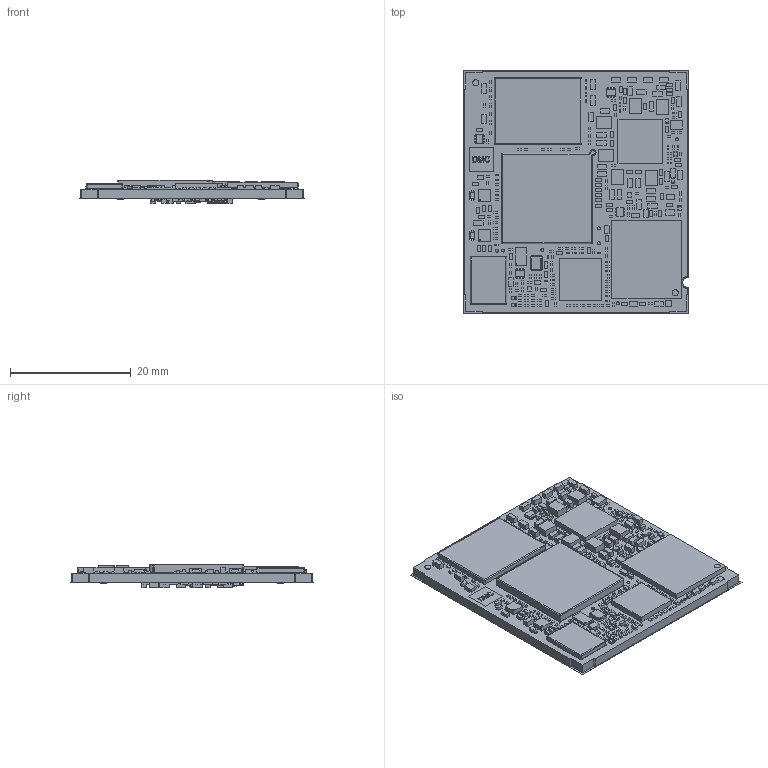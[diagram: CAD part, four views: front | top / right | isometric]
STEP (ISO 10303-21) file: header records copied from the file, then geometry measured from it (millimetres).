
FILE_DESCRIPTION(('STEP AP214'),'1');
FILE_NAME('Board1_BoardAndModels.step','2022-11-23T14:11:47',(' '),(' '),'Spatial InterOp 3D','XD3DPlugin XRACreate',' ');
FILE_SCHEMA(('automotive_design'));
Length unit declared in the file: millimetre
Products named in the file (149): Submodel-N:\GROUP\DEVELOP\HARDWARE\PCL-070-iMX8MPlus\Design\1561.1\002\PCB\Layout\3D\Input_S\0201YC101KAZ2A.xtd; 0201YC101KAZ2A; Submodel-CAP3713_part_simplified_0201; DesignRootModel; Submodel-N:\GROUP\DEVELOP\HARDWARE\PCL-070-iMX8MPlus\Design\1561.1\002\PCB\Layout\3D\Input_S\06035C473JAZ7A_0.xtd; 06035C473JAZ7A_0; Submodel-CAP3343_part_simplified_0603-C3; Submodel-N:\GROUP\DEVELOP\HARDWARE\PCL-070-iMX8MPlus\Design\1561.1\002\PCB\Layout\3D\Input_S\0402YC822JAZ4A.xtd; 0402YC822JAZ4A; Submodel-CAP722_part_simplified_0402-C3; Submodel-CAP3843_part_simplified_0201; Submodel-N:\GROUP\DEVELOP\HARDWARE\PCL-070-iMX8MPlus\Design\1561.1\002\PCB\Layout\3D\Input_S\RC0603F1005CS.xtd; RC0603F1005CS; Submodel-RES5673_part_simplified_0201; Submodel-N:\GROUP\DEVELOP\HARDWARE\PCL-070-iMX8MPlus\Design\1561.1\002\PCB\Layout\3D\Input_S\CRCW020110R7JNEF.xtd; CRCW020110R7JNEF; Submodel-RES5653_part_simplified_0201; Submodel-RES6123_part_simplified_0201; Submodel-N:\GROUP\DEVELOP\HARDWARE\PCL-070-iMX8MPlus\Design\1561.1\002\PCB\Layout\3D\Input_S\REMOVE_CONN13663.xtd; REMOVE_CONN13663; Submodel-CONN13663_part_simplified_Testpunkt-0.5mm; Submodel-N:\GROUP\DEVELOP\HARDWARE\PCL-070-iMX8MPlus\Design\1561.1\002\PCB\Layout\3D\Input_S\xd_sot666_4.xtd; xd_sot666_4; Submodel-ICGEN523_part_simplified_R-PDSO-N6-DRL; Submodel-N:\GROUP\DEVELOP\HARDWARE\PCL-070-iMX8MPlus\Design\1561.1\002\PCB\Layout\3D\Input_S\RCC-0402-1000F.xtd; RCC-0402-1000F; Submodel-RES5193_part_simplified_0402; Submodel-N:\GROUP\DEVELOP\HARDWARE\PCL-070-iMX8MPlus\Design\1561.1\002\PCB\Layout\3D\Input_S\BLM15BD471SN1D.xtd; BLM15BD471SN1D; Submodel-FILTER92_part_simplified_0402-C3; Submodel-RES5713_part_simplified_0201; Submodel-RES5773_part_simplified_0201; Submodel-CAP3313_part_simplified_0201; Submodel-N:\GROUP\DEVELOP\HARDWARE\PCL-070-iMX8MPlus\Design\1561.1\002\PCB\Layout\3D\Input_S\TRANSISTOR932.xtd; TRANSISTOR932; Submodel-TRANSISTOR932_part_simplified_DFN-0806-3; Submodel-CAP3003_part_simplified_0201; Submodel-N:\GROUP\DEVELOP\HARDWARE\PCL-070-iMX8MPlus\Design\1561.1\002\PCB\Layout\3D\Input_S\EEPROM202.xtd; EEPROM202; Submodel-EEPROM202_part_simplified_DFN8-50-EP1_comma_2x1_comma_2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
Assembly tree (523 placements, depth 6):
  Board1_BoardAndModels
    DesignRootModel
      Submodel-CAP3713_part_simplified_0201  x20
        Submodel-N:\GROUP\DEVELOP\HARDWARE\PCL-070-iMX8MPlus\Design\1561.1\002\PCB\Layout\3D\Input_S\0201YC101KAZ2A.xtd
          0201YC101KAZ2A
      Submodel-CAP3343_part_simplified_0603-C3  x40
        Submodel-N:\GROUP\DEVELOP\HARDWARE\PCL-070-iMX8MPlus\Design\1561.1\002\PCB\Layout\3D\Input_S\06035C473JAZ7A_0.xtd
          06035C473JAZ7A_0
      Submodel-CAP722_part_simplified_0402-C3  x29
        Submodel-N:\GROUP\DEVELOP\HARDWARE\PCL-070-iMX8MPlus\Design\1561.1\002\PCB\Layout\3D\Input_S\0402YC822JAZ4A.xtd
          0402YC822JAZ4A
      Submodel-CAP3843_part_simplified_0201  x106
        Submodel-N:\GROUP\DEVELOP\HARDWARE\PCL-070-iMX8MPlus\Design\1561.1\002\PCB\Layout\3D\Input_S\0201YC101KAZ2A.xtd
          0201YC101KAZ2A
      Submodel-RES5673_part_simplified_0201  x23
        Submodel-N:\GROUP\DEVELOP\HARDWARE\PCL-070-iMX8MPlus\Design\1561.1\002\PCB\Layout\3D\Input_S\RC0603F1005CS.xtd
          RC0603F1005CS
      Submodel-RES5653_part_simplified_0201  x13
        Submodel-N:\GROUP\DEVELOP\HARDWARE\PCL-070-iMX8MPlus\Design\1561.1\002\PCB\Layout\3D\Input_S\CRCW020110R7JNEF.xtd
          CRCW020110R7JNEF
      Submodel-RES6123_part_simplified_0201  x9
        Submodel-N:\GROUP\DEVELOP\HARDWARE\PCL-070-iMX8MPlus\Design\1561.1\002\PCB\Layout\3D\Input_S\CRCW020110R7JNEF.xtd
          CRCW020110R7JNEF
      Submodel-CONN13663_part_simplified_Testpunkt-0.5mm  x7
        Submodel-N:\GROUP\DEVELOP\HARDWARE\PCL-070-iMX8MPlus\Design\1561.1\002\PCB\Layout\3D\Input_S\REMOVE_CONN13663.xtd
          REMOVE_CONN13663
      Submodel-ICGEN523_part_simplified_R-PDSO-N6-DRL  x4
        Submodel-N:\GROUP\DEVELOP\HARDWARE\PCL-070-iMX8MPlus\Design\1561.1\002\PCB\Layout\3D\Input_S\xd_sot666_4.xtd
          xd_sot666_4
      Submodel-RES5193_part_simplified_0402  x2
        Submodel-N:\GROUP\DEVELOP\HARDWARE\PCL-070-iMX8MPlus\Design\1561.1\002\PCB\Layout\3D\Input_S\RCC-0402-1000F.xtd
          RCC-0402-1000F
      Submodel-FILTER92_part_simplified_0402-C3  x8
        Submodel-N:\GROUP\DEVELOP\HARDWARE\PCL-070-iMX8MPlus\Design\1561.1\002\PCB\Layout\3D\Input_S\BLM15BD471SN1D.xtd
          BLM15BD471SN1D
      Submodel-RES5713_part_simplified_0201  x14
        Submodel-N:\GROUP\DEVELOP\HARDWARE\PCL-070-iMX8MPlus\Design\1561.1\002\PCB\Layout\3D\Input_S\RC0603F1005CS.xtd
          RC0603F1005CS
      Submodel-RES5773_part_simplified_0201  x6
        Submodel-N:\GROUP\DEVELOP\HARDWARE\PCL-070-iMX8MPlus\Design\1561.1\002\PCB\Layout\3D\Input_S\RC0603F1005CS.xtd
          RC0603F1005CS
      Submodel-CAP3313_part_simplified_0201  x2
        Submodel-N:\GROUP\DEVELOP\HARDWARE\PCL-070-iMX8MPlus\Design\1561.1\002\PCB\Layout\3D\Input_S\0201YC101KAZ2A.xtd
          0201YC101KAZ2A
      Submodel-TRANSISTOR932_part_simplified_DFN-0806-3  x8
        Submodel-N:\GROUP\DEVELOP\HARDWARE\PCL-070-iMX8MPlus\Design\1561.1\002\PCB\Layout\3D\Input_S\TRANSISTOR932.xtd
          TRANSISTOR932
      Submodel-CAP3003_part_simplified_0201  x4
        Submodel-N:\GROUP\DEVELOP\HARDWARE\PCL-070-iMX8MPlus\Design\1561.1\002\PCB\Layout\3D\Input_S\0201YC101KAZ2A.xtd
          0201YC101KAZ2A
      Submodel-EEPROM202_part_simplified_DFN8-50-EP1_comma_2x1_comma_2
        Submodel-N:\GROUP\DEVELOP\HARDWARE\PCL-070-iMX8MPlus\Design\1561.1\002\PCB\Layout\3D\Input_S\EEPROM202.xtd
          EEPROM202
      Submodel-LOGIC1183_part_simplified_BGA4-40-AC3
        Submodel-N:\GROUP\DEVELOP\HARDWARE\PCL-070-iMX8MPlus\Design\1561.1\002\PCB\Layout\3D\Input_S\LOGIC1183.xtd
          LOGIC1183
      Submodel-CAP3663_part_simplified_0402-C3  x2
        Submodel-N:\GROUP\DEVELOP\HARDWARE\PCL-070-iMX8MPlus\Design\1561.1\002\PCB\Layout\3D\Input_S\C0402C270F5GAC_0.xtd
          C0402C270F5GAC_0
      Submodel-RES5803_part_simplified_0201  x19
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Bounding box: 37.4 x 40.4 x 3.96 mm (x, y, z)
Volume: 3260.4 mm3; surface area: 8536.1 mm2
Topology: 646 solids, 662 shells, 4545 faces, 10564 edges, 6994 vertices
Faces by surface type: plane 3752, cylinder 389, sphere 372, torus 28, bspline 4
Full cylindrical faces by diameter (mm): 0.25 x2
Entity records: 70736 total; most frequent: DIRECTION 9061, CARTESIAN_POINT 8524, ORIENTED_EDGE 6916, EDGE_CURVE 3521, AXIS2_PLACEMENT_3D 3352, PRESENTATION_STYLE_ASSIGNMENT 2767, COLOUR_RGB 2767, STYLED_ITEM 2755
